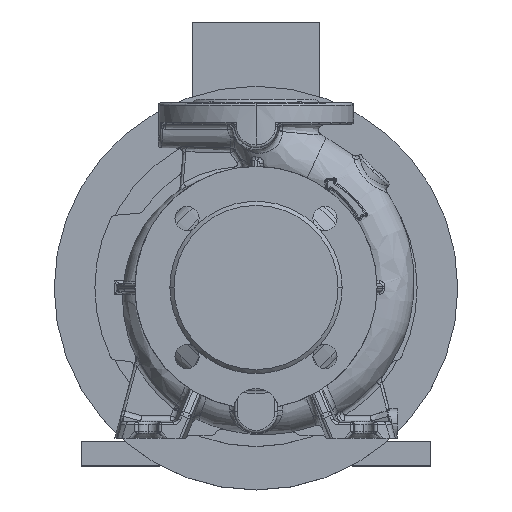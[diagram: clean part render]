
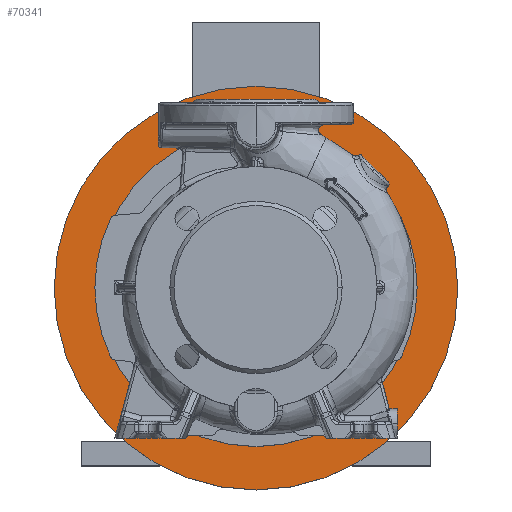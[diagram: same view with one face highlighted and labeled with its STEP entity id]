
A CAD part, top view. The second image highlights one B-rep face of the part: STEP entity #70341.
In plain terms, the highlighted planar face has unit normal (0, 0, 1).
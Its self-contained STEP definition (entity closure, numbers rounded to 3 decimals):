
#2057 = DIRECTION ( 'NONE',  ( 1., 0., 0. ) ) ;
#2731 = AXIS2_PLACEMENT_3D ( 'NONE', #72758, #68004, #68495 ) ;
#3839 = EDGE_CURVE ( 'NONE', #71200, #17004, #30654, .T. ) ;
#8075 = ORIENTED_EDGE ( 'NONE', *, *, #3839, .T. ) ;
#10705 = CARTESIAN_POINT ( 'NONE',  ( 150., 0., -189.3 ) ) ;
#11261 = AXIS2_PLACEMENT_3D ( 'NONE', #63228, #28895, #69004 ) ;
#12165 = VERTEX_POINT ( 'NONE', #35115 ) ;
#13222 = CIRCLE ( 'NONE', #56035, 150. ) ;
#15478 = EDGE_CURVE ( 'NONE', #12165, #34110, #16776, .T. ) ;
#16776 = CIRCLE ( 'NONE', #71688, 80. ) ;
#17004 = VERTEX_POINT ( 'NONE', #10705 ) ;
#18546 = AXIS2_PLACEMENT_3D ( 'NONE', #59448, #35696, #2057 ) ;
#21976 = FACE_BOUND ( 'NONE', #67586, .T. ) ;
#24373 = EDGE_CURVE ( 'NONE', #17004, #71200, #13222, .T. ) ;
#26958 = PLANE ( 'NONE',  #2731 ) ;
#28895 = DIRECTION ( 'NONE',  ( 0., 0., 1. ) ) ;
#30654 = CIRCLE ( 'NONE', #18546, 150. ) ;
#30694 = EDGE_CURVE ( 'NONE', #34110, #12165, #66719, .T. ) ;
#32562 = DIRECTION ( 'NONE',  ( 1., 0., 0. ) ) ;
#32633 = EDGE_LOOP ( 'NONE', ( #41303, #8075 ) ) ;
#33833 = DIRECTION ( 'NONE',  ( 0., 0., 1. ) ) ;
#34110 = VERTEX_POINT ( 'NONE', #39111 ) ;
#34522 = ORIENTED_EDGE ( 'NONE', *, *, #15478, .F. ) ;
#35115 = CARTESIAN_POINT ( 'NONE',  ( 80., 0., -189.3 ) ) ;
#35696 = DIRECTION ( 'NONE',  ( 0., 0., 1. ) ) ;
#38352 = DIRECTION ( 'NONE',  ( 0., 0., 1. ) ) ;
#39111 = CARTESIAN_POINT ( 'NONE',  ( -80., 0., -189.3 ) ) ;
#41303 = ORIENTED_EDGE ( 'NONE', *, *, #24373, .T. ) ;
#44887 = DIRECTION ( 'NONE',  ( 1., 0., 0. ) ) ;
#50145 = CARTESIAN_POINT ( 'NONE',  ( 0., 0., -189.3 ) ) ;
#50643 = FACE_OUTER_BOUND ( 'NONE', #32633, .T. ) ;
#56035 = AXIS2_PLACEMENT_3D ( 'NONE', #68135, #33833, #44887 ) ;
#56323 = ORIENTED_EDGE ( 'NONE', *, *, #30694, .F. ) ;
#59448 = CARTESIAN_POINT ( 'NONE',  ( 0., 0., -189.3 ) ) ;
#63228 = CARTESIAN_POINT ( 'NONE',  ( 0., 0., -189.3 ) ) ;
#66719 = CIRCLE ( 'NONE', #11261, 80. ) ;
#67586 = EDGE_LOOP ( 'NONE', ( #34522, #56323 ) ) ;
#67595 = CARTESIAN_POINT ( 'NONE',  ( -150., 0., -189.3 ) ) ;
#68004 = DIRECTION ( 'NONE',  ( 0., 0., -1. ) ) ;
#68135 = CARTESIAN_POINT ( 'NONE',  ( 0., 0., -189.3 ) ) ;
#68495 = DIRECTION ( 'NONE',  ( -1., 0., 0. ) ) ;
#69004 = DIRECTION ( 'NONE',  ( 1., 0., 0. ) ) ;
#70341 = ADVANCED_FACE ( 'NONE', ( #21976, #50643 ), #26958, .F. ) ;
#71200 = VERTEX_POINT ( 'NONE', #67595 ) ;
#71688 = AXIS2_PLACEMENT_3D ( 'NONE', #50145, #38352, #32562 ) ;
#72758 = CARTESIAN_POINT ( 'NONE',  ( 0., 80., -189.3 ) ) ;
